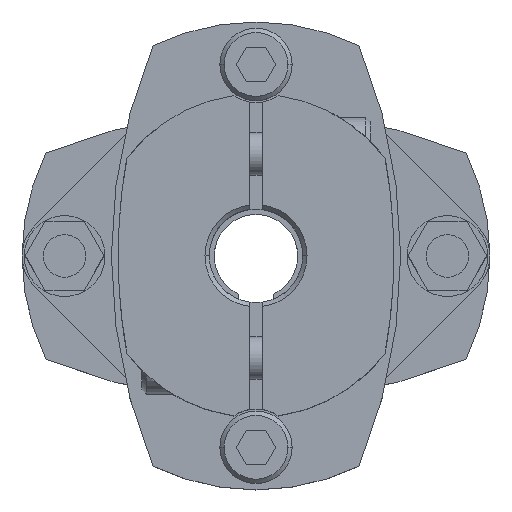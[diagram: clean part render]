
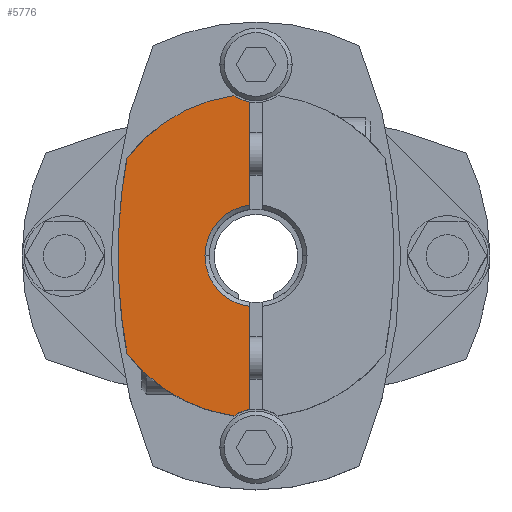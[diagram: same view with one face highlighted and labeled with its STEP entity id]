
A CAD part, top view. The second image highlights one B-rep face of the part: STEP entity #5776.
In plain terms, the highlighted planar face has unit normal (0, 0, 1).
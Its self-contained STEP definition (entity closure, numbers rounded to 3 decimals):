
#855=CARTESIAN_POINT('',(-6.,0.,22.4));
#856=VERTEX_POINT('',#855);
#865=CARTESIAN_POINT('',(-0.75,-5.953,22.4));
#866=VERTEX_POINT('',#865);
#867=CARTESIAN_POINT('',(0.,0.,22.4));
#868=DIRECTION('',(0.0,0.0,1.0));
#869=DIRECTION('',(1.0,0.0,0.0));
#870=AXIS2_PLACEMENT_3D('',#867,#868,#869);
#871=CIRCLE('',#870,6.0);
#872=EDGE_CURVE('',#856,#866,#871,.T.);
#1231=CARTESIAN_POINT('',(-16.2,0.,22.4));
#1232=VERTEX_POINT('',#1231);
#1340=CARTESIAN_POINT('',(-15.173,-11.435,22.4));
#1341=VERTEX_POINT('',#1340);
#1348=CARTESIAN_POINT('',(48.,0.,22.4));
#1349=DIRECTION('',(0.0,0.0,-1.0));
#1350=DIRECTION('',(-1.0,0.0,0.0));
#1351=AXIS2_PLACEMENT_3D('',#1348,#1349,#1350);
#1352=CIRCLE('',#1351,64.2);
#1353=EDGE_CURVE('',#1341,#1232,#1352,.T.);
#4391=CARTESIAN_POINT('',(-2.593,-18.822,22.4));
#4392=VERTEX_POINT('',#4391);
#4399=CARTESIAN_POINT('',(0.,0.,22.4));
#4400=DIRECTION('',(0.0,0.0,-1.0));
#4401=DIRECTION('',(-1.0,0.0,0.0));
#4402=AXIS2_PLACEMENT_3D('',#4399,#4400,#4401);
#4403=CIRCLE('',#4402,19.);
#4404=EDGE_CURVE('',#4392,#1341,#4403,.T.);
#4617=CARTESIAN_POINT('',(-15.173,11.435,22.4));
#4618=VERTEX_POINT('',#4617);
#4619=CARTESIAN_POINT('',(48.,0.,22.4));
#4620=DIRECTION('',(0.0,0.0,-1.0));
#4621=DIRECTION('',(-1.0,0.0,0.0));
#4622=AXIS2_PLACEMENT_3D('',#4619,#4620,#4621);
#4623=CIRCLE('',#4622,64.2);
#4624=EDGE_CURVE('',#1232,#4618,#4623,.T.);
#5305=CARTESIAN_POINT('',(-0.75,-18.063,22.4));
#5306=VERTEX_POINT('',#5305);
#5313=CARTESIAN_POINT('',(0.,-22.5,22.4));
#5314=DIRECTION('',(0.0,0.0,-1.0));
#5315=DIRECTION('',(-1.0,0.0,0.0));
#5316=AXIS2_PLACEMENT_3D('',#5313,#5314,#5315);
#5317=CIRCLE('',#5316,4.5);
#5318=EDGE_CURVE('',#4392,#5306,#5317,.T.);
#5330=CARTESIAN_POINT('',(-0.75,18.063,22.4));
#5331=VERTEX_POINT('',#5330);
#5347=CARTESIAN_POINT('',(-2.593,18.822,22.4));
#5348=VERTEX_POINT('',#5347);
#5355=CARTESIAN_POINT('',(0.,22.5,22.4));
#5356=DIRECTION('',(0.0,0.0,-1.0));
#5357=DIRECTION('',(-1.0,0.0,0.0));
#5358=AXIS2_PLACEMENT_3D('',#5355,#5356,#5357);
#5359=CIRCLE('',#5358,4.5);
#5360=EDGE_CURVE('',#5331,#5348,#5359,.T.);
#5698=CARTESIAN_POINT('',(-0.75,5.953,22.4));
#5699=VERTEX_POINT('',#5698);
#5700=CARTESIAN_POINT('',(-0.75,5.953,22.4));
#5701=DIRECTION('',(0.0,1.0,0.0));
#5702=VECTOR('',#5701,12.11);
#5703=LINE('',#5700,#5702);
#5704=EDGE_CURVE('',#5699,#5331,#5703,.T.);
#5742=CARTESIAN_POINT('',(0.,0.,22.4));
#5743=DIRECTION('',(0.0,0.0,1.0));
#5744=DIRECTION('',(-1.0,0.0,0.0));
#5745=AXIS2_PLACEMENT_3D('',#5742,#5743,#5744);
#5746=PLANE('',#5745);
#5747=ORIENTED_EDGE('',*,*,#5318,.T.);
#5748=CARTESIAN_POINT('',(-0.75,-18.063,22.4));
#5749=DIRECTION('',(0.0,1.0,0.0));
#5750=VECTOR('',#5749,12.11);
#5751=LINE('',#5748,#5750);
#5752=EDGE_CURVE('',#5306,#866,#5751,.T.);
#5753=ORIENTED_EDGE('',*,*,#5752,.T.);
#5754=ORIENTED_EDGE('',*,*,#872,.F.);
#5755=CARTESIAN_POINT('',(0.,0.,22.4));
#5756=DIRECTION('',(0.0,0.0,1.0));
#5757=DIRECTION('',(1.0,0.0,0.0));
#5758=AXIS2_PLACEMENT_3D('',#5755,#5756,#5757);
#5759=CIRCLE('',#5758,6.0);
#5760=EDGE_CURVE('',#5699,#856,#5759,.T.);
#5761=ORIENTED_EDGE('',*,*,#5760,.F.);
#5762=ORIENTED_EDGE('',*,*,#5704,.T.);
#5763=ORIENTED_EDGE('',*,*,#5360,.T.);
#5764=CARTESIAN_POINT('',(0.,0.,22.4));
#5765=DIRECTION('',(0.0,0.0,-1.0));
#5766=DIRECTION('',(-1.0,0.0,0.0));
#5767=AXIS2_PLACEMENT_3D('',#5764,#5765,#5766);
#5768=CIRCLE('',#5767,19.);
#5769=EDGE_CURVE('',#4618,#5348,#5768,.T.);
#5770=ORIENTED_EDGE('',*,*,#5769,.F.);
#5771=ORIENTED_EDGE('',*,*,#4624,.F.);
#5772=ORIENTED_EDGE('',*,*,#1353,.F.);
#5773=ORIENTED_EDGE('',*,*,#4404,.F.);
#5774=EDGE_LOOP('',(#5747,#5753,#5754,#5761,#5762,#5763,#5770,#5771,#5772,#5773));
#5775=FACE_OUTER_BOUND('',#5774,.T.);
#5776=ADVANCED_FACE('',(#5775),#5746,.T.);
